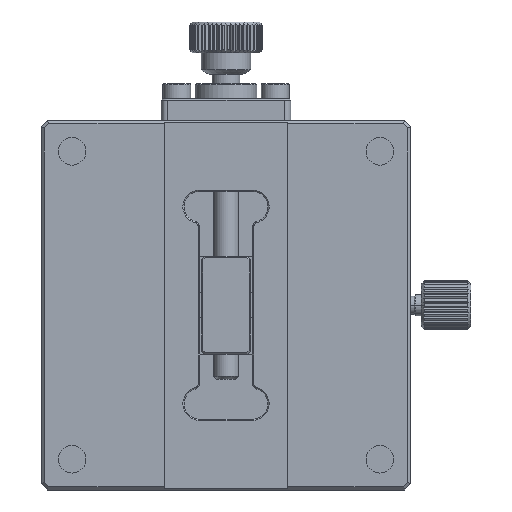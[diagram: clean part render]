
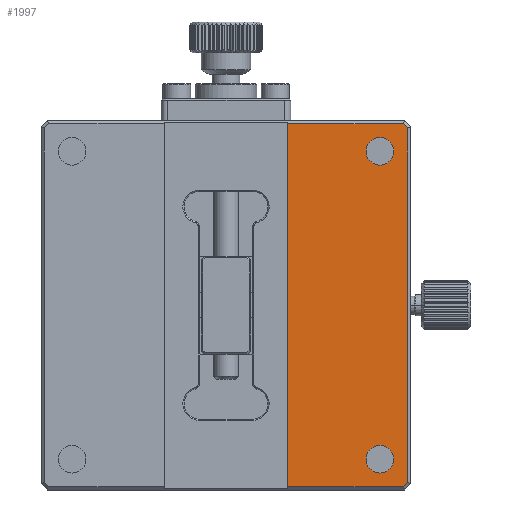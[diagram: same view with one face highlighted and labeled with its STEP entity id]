
A CAD part, front view. The second image highlights one B-rep face of the part: STEP entity #1997.
In plain terms, the highlighted planar face has unit normal (0, -1, 0).
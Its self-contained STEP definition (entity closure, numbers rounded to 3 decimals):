
#295=CARTESIAN_POINT('',(25.,-5.9,-25.));
#296=DIRECTION('',(0.,1.,0.));
#297=DIRECTION('',(1.,0.,0.));
#298=AXIS2_PLACEMENT_3D('',#295,#296,#297);
#300=CARTESIAN_POINT('',(25.,-5.9,-25.));
#301=DIRECTION('',(0.,1.,0.));
#302=DIRECTION('',(-1.,0.,0.));
#303=AXIS2_PLACEMENT_3D('',#300,#301,#302);
#315=CARTESIAN_POINT('',(25.,-5.9,25.));
#316=DIRECTION('',(0.,1.,0.));
#317=DIRECTION('',(1.,0.,0.));
#318=AXIS2_PLACEMENT_3D('',#315,#316,#317);
#320=CARTESIAN_POINT('',(25.,-5.9,25.));
#321=DIRECTION('',(0.,1.,0.));
#322=DIRECTION('',(-1.,0.,0.));
#323=AXIS2_PLACEMENT_3D('',#320,#321,#322);
#349=DIRECTION('',(0.,0.,1.));
#350=VECTOR('',#349,59.);
#351=CARTESIAN_POINT('',(10.,-5.9,-29.5));
#352=LINE('',#351,#350);
#353=DIRECTION('',(-1.,0.,0.));
#354=VECTOR('',#353,18.793);
#355=CARTESIAN_POINT('',(28.793,-5.9,29.5));
#356=LINE('',#355,#354);
#357=DIRECTION('',(-0.707,0.,0.707));
#358=VECTOR('',#357,1.);
#359=CARTESIAN_POINT('',(29.5,-5.9,28.793));
#360=LINE('',#359,#358);
#361=DIRECTION('',(0.,0.,1.));
#362=VECTOR('',#361,57.586);
#363=CARTESIAN_POINT('',(29.5,-5.9,-28.793));
#364=LINE('',#363,#362);
#365=DIRECTION('',(0.707,0.,0.707));
#366=VECTOR('',#365,1.);
#367=CARTESIAN_POINT('',(28.793,-5.9,-29.5));
#368=LINE('',#367,#366);
#369=DIRECTION('',(1.,0.,0.));
#370=VECTOR('',#369,18.793);
#371=CARTESIAN_POINT('',(10.,-5.9,-29.5));
#372=LINE('',#371,#370);
#1307=CARTESIAN_POINT('',(28.793,-5.9,-29.5));
#1308=CARTESIAN_POINT('',(29.5,-5.9,-28.793));
#1309=VERTEX_POINT('',#1307);
#1310=VERTEX_POINT('',#1308);
#1315=CARTESIAN_POINT('',(29.5,-5.9,28.793));
#1316=VERTEX_POINT('',#1315);
#1317=CARTESIAN_POINT('',(28.793,-5.9,29.5));
#1318=VERTEX_POINT('',#1317);
#1477=CARTESIAN_POINT('',(27.25,-5.9,-25.));
#1478=CARTESIAN_POINT('',(22.75,-5.9,-25.));
#1479=VERTEX_POINT('',#1477);
#1480=VERTEX_POINT('',#1478);
#1485=CARTESIAN_POINT('',(27.25,-5.9,25.));
#1486=CARTESIAN_POINT('',(22.75,-5.9,25.));
#1487=VERTEX_POINT('',#1485);
#1488=VERTEX_POINT('',#1486);
#1557=CARTESIAN_POINT('',(10.,-5.9,-29.5));
#1558=CARTESIAN_POINT('',(10.,-5.9,29.5));
#1559=VERTEX_POINT('',#1557);
#1560=VERTEX_POINT('',#1558);
#1967=CARTESIAN_POINT('',(0.,-5.9,0.));
#1968=DIRECTION('',(0.,1.,0.));
#1969=DIRECTION('',(1.,0.,0.));
#1970=AXIS2_PLACEMENT_3D('',#1967,#1968,#1969);
#1971=PLANE('',#1970);
#1973=ORIENTED_EDGE('',*,*,#1972,.T.);
#1975=ORIENTED_EDGE('',*,*,#1974,.F.);
#1977=ORIENTED_EDGE('',*,*,#1976,.F.);
#1979=ORIENTED_EDGE('',*,*,#1978,.F.);
#1980=ORIENTED_EDGE('',*,*,#1925,.F.);
#1982=ORIENTED_EDGE('',*,*,#1981,.F.);
#1983=EDGE_LOOP('',(#1973,#1975,#1977,#1979,#1980,#1982));
#1984=FACE_OUTER_BOUND('',#1983,.F.);
#1986=ORIENTED_EDGE('',*,*,#1985,.F.);
#1988=ORIENTED_EDGE('',*,*,#1987,.F.);
#1989=EDGE_LOOP('',(#1986,#1988));
#1990=FACE_BOUND('',#1989,.F.);
#1992=ORIENTED_EDGE('',*,*,#1991,.F.);
#1994=ORIENTED_EDGE('',*,*,#1993,.F.);
#1995=EDGE_LOOP('',(#1992,#1994));
#1996=FACE_BOUND('',#1995,.F.);
#1997=ADVANCED_FACE('',(#1984,#1990,#1996),#1971,.F.);
#299=CIRCLE('',#298,2.25);
#304=CIRCLE('',#303,2.25);
#319=CIRCLE('',#318,2.25);
#324=CIRCLE('',#323,2.25);
#1925=EDGE_CURVE('',#1309,#1310,#368,.T.);
#1972=EDGE_CURVE('',#1559,#1560,#352,.T.);
#1974=EDGE_CURVE('',#1318,#1560,#356,.T.);
#1976=EDGE_CURVE('',#1316,#1318,#360,.T.);
#1978=EDGE_CURVE('',#1310,#1316,#364,.T.);
#1981=EDGE_CURVE('',#1559,#1309,#372,.T.);
#1985=EDGE_CURVE('',#1479,#1480,#299,.T.);
#1987=EDGE_CURVE('',#1480,#1479,#304,.T.);
#1991=EDGE_CURVE('',#1487,#1488,#319,.T.);
#1993=EDGE_CURVE('',#1488,#1487,#324,.T.);
